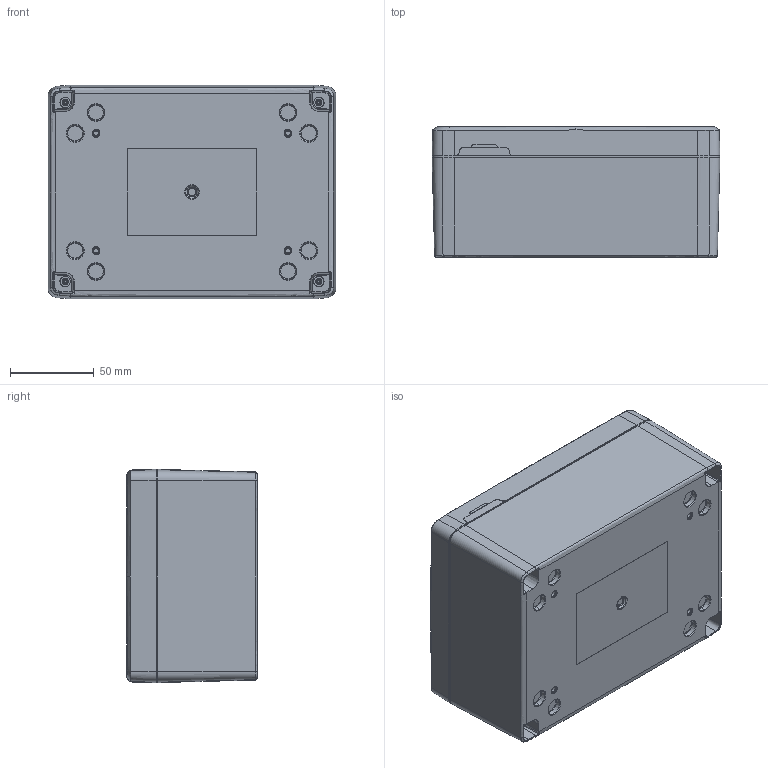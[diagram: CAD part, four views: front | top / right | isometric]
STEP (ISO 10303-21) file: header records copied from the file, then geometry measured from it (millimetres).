
FILE_DESCRIPTION (( 'STEP AP214' ), '1' );
FILE_NAME ('HN-57-14.STEP', '2026-02-24T13:06:50', ( '' ), ( '' ), 'SwSTEP 2.0', 'SolidWorks 2025', '' );
FILE_SCHEMA (( 'AUTOMOTIVE_DESIGN' ));
Length unit declared in the file: inch
Products named in the file (9): HN-57G_default; SCREWS-054_DEFAULT; HN-57CG_HN-57CG-02; INSERTS-3_INSERTS-3; LABEL-107; HN-57-14; HN-57B_HN-57BP-00; HN-57C_HN-57C-02; HN-57BN_HN-57BPN-00
Assembly tree (14 placements, depth 3):
  HN-57-14
    HN-57B_HN-57BP-00
      HN-57BN_HN-57BPN-00
      INSERTS-3_INSERTS-3  x4
      LABEL-107
    HN-57CG_HN-57CG-02
      HN-57C_HN-57C-02
      HN-57G_default
    SCREWS-054_DEFAULT  x4
Bounding box: 171.45 x 77.93 x 127 mm (x, y, z)
Volume: 311612.4 mm3; surface area: 204418.6 mm2
Topology: 11 solids, 13 shells, 4280 faces, 10468 edges, 6198 vertices
Faces by surface type: torus 1156, cone 1108, bspline 786, plane 607, cylinder 565, sphere 58
Entity records: 147142 total; most frequent: CARTESIAN_POINT 65075, ORIENTED_EDGE 18414, DIRECTION 15978, EDGE_CURVE 9210, AXIS2_PLACEMENT_3D 7072, VERTEX_POINT 5532, CIRCLE 3981, EDGE_LOOP 3851
